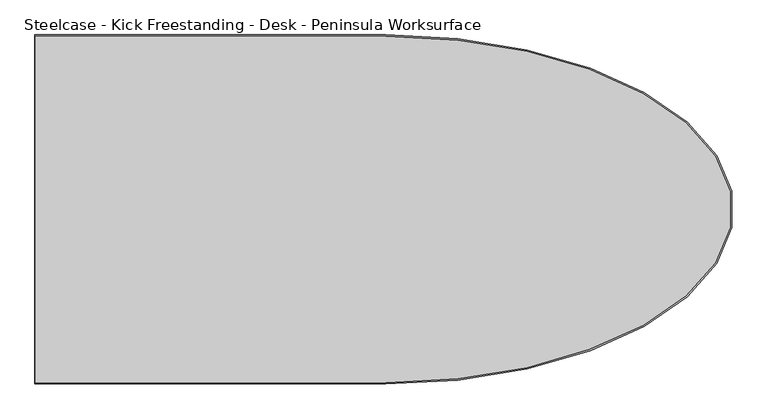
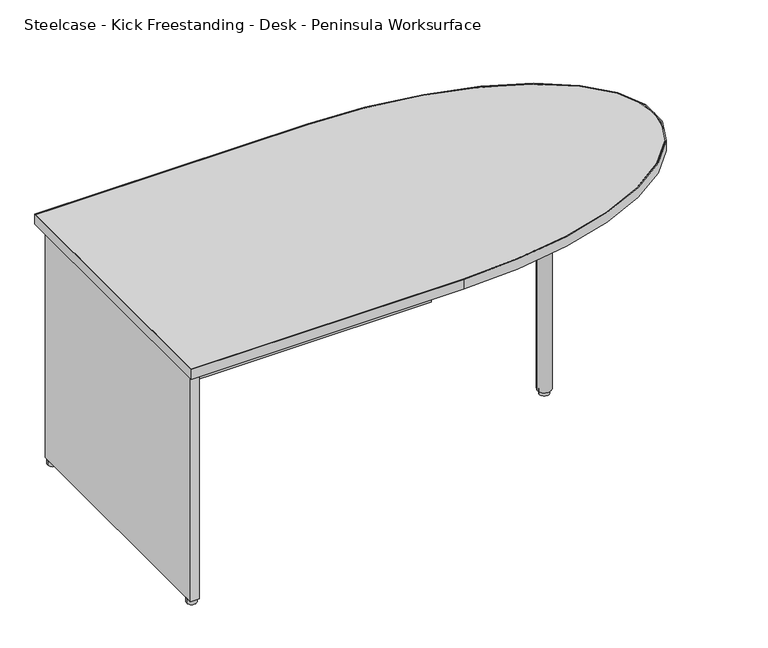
"""IFC4 building model written with IfcOpenShell, lengths in millimetres: furniture geometry, Steelcase - Kick Freestanding - Desk - Peninsula Worksurface : 30D x 60W - Half Panel."""

from ifc_helpers import new_model, si_unit, point, frame, frame_2d, origin, origin_with_axes, place, context, project, spatial, polyline, circle_curve, ellipse_curve, trimmed, segment, composite_curve, outline, extrude, source, transform, mapped, element, save
from ifc_brep_helpers import plane_surface, extruded_surface, advanced_brep


def steelcase_kick_freestanding_desk_peninsula_worksurface_f1aca273(model_context):
    return source(origin(), model_context, "Body", "SolidModel", [
        extrude(outline(polyline([(3375.2298423, -802.0909301), (3500.9534455, -927.8145152), (3375.2298786, -1053.5381002), (3249.5062754, -927.8145152), (3375.2298423, -802.0909301)])), frame((0.0, 0.0, 678.688), z_axis=(0.0, 0.0, 1.0), x_axis=(1.0, 0.0, 0.0)), (0.0, 0.0, 1.0), 16.256),
        extrude(outline(polyline([(2200.9434425, -940.5145152), (2200.9434425, -915.1145152), (3050.5734425, -915.1145152), (3050.5734425, -940.5145152), (2200.9434425, -940.5145152)])), frame((0.0, 0.0, 390.144), z_axis=(0.0, 0.0, 1.0), x_axis=(1.0, 0.0, 0.0)), (0.0, 0.0, 1.0), 304.8),
        extrude(outline(composite_curve([segment(trimmed(circle_curve(frame_2d((3375.1854425, -927.8063303)), 13.97), [point((3361.2154425, -927.8063303))], [point((3389.1554425, -927.8063303))], False, "CARTESIAN"), True, "CONTINUOUS"), segment(trimmed(circle_curve(frame_2d((3375.1854425, -927.8063303)), 13.97), [point((3389.1554425, -927.8063303))], [point((3361.2154425, -927.8063303))], False, "CARTESIAN"), True, "CONTINUOUS")], self_intersect=False)), origin_with_axes(), (0.0, 0.0, 1.0), 12.5222),
        extrude(outline(composite_curve([segment(trimmed(circle_curve(frame_2d((3375.1854425, -927.7998125)), 19.05), [point((3356.1354425, -927.7998125))], [point((3394.2354425, -927.7998125))], False, "CARTESIAN"), True, "CONTINUOUS"), segment(trimmed(circle_curve(frame_2d((3375.1854425, -927.7998125)), 19.05), [point((3394.2354425, -927.7998125))], [point((3356.1354425, -927.7998125))], False, "CARTESIAN"), True, "CONTINUOUS")], self_intersect=False)), frame((0.0, 0.0, 12.5222), z_axis=(0.0, 0.0, 1.0), x_axis=(1.0, 0.0, 0.0)), (0.0, 0.0, 1.0), 682.4218),
        extrude(outline(composite_curve([segment(trimmed(circle_curve(frame_2d((2188.6643434, -589.5500339)), 13.97), [point((2174.6943434, -589.5500339))], [point((2202.6343434, -589.5500339))], False, "CARTESIAN"), True, "CONTINUOUS"), segment(trimmed(circle_curve(frame_2d((2188.6643434, -589.5500339)), 13.97), [point((2202.6343434, -589.5500339))], [point((2174.6943434, -589.5500339))], False, "CARTESIAN"), True, "CONTINUOUS")], self_intersect=False)), origin_with_axes(), (0.0, 0.0, 1.0), 12.5222),
        extrude(outline(composite_curve([segment(trimmed(circle_curve(frame_2d((2188.6465467, -1265.8952821)), 13.97), [point((2174.6765467, -1265.8952821))], [point((2202.6165467, -1265.8952821))], False, "CARTESIAN"), True, "CONTINUOUS"), segment(trimmed(circle_curve(frame_2d((2188.6465467, -1265.8952821)), 13.97), [point((2202.6165467, -1265.8952821))], [point((2174.6765467, -1265.8952821))], False, "CARTESIAN"), True, "CONTINUOUS")], self_intersect=False)), origin_with_axes(), (0.0, 0.0, 1.0), 12.5222),
        advanced_brep(
        [(2163.8594425, -546.8145152, 723.9), (2163.8594425, -1308.8145152, 723.9), (2928.2978111, -1308.8145152, 723.9), (2928.2978111, -546.8145152, 723.9), (2164.8500425, -549.7863152, 723.9), (2928.2978111, -549.7863152, 723.9), (2928.2978111, -1305.8427489, 723.9), (2164.8500425, -1305.8427489, 723.9), (2163.8594425, -546.8145152, 694.944), (2928.2978111, -546.8145152, 694.944), (2928.2978111, -1308.8145152, 694.944), (2163.8594425, -1308.8145152, 694.944), (2164.8500425, -549.7863152, 694.944), (2164.8500425, -1305.8427489, 694.944), (2928.2978111, -1305.8427489, 694.944), (2928.2978111, -549.7863152, 694.944)],
        [
            (0, 1),
            (1, 2),
            (2, 3, ellipse_curve(frame((2928.2978111, -927.8145152, 723.9), z_axis=(0.0, 0.0, 1.0), x_axis=(-1.0, 0.0, 0.0)), 759.0188112, 381.0)),
            (3, 0),
            (4, 5),
            (5, 6, ellipse_curve(frame((2928.2978111, -927.8145321, 723.9), z_axis=(0.0, 0.0, -1.0), x_axis=(-1.0, 0.0, 0.0)), 755.65, 378.0282168)),
            (6, 7),
            (7, 4),
            (8, 9),
            (9, 10, ellipse_curve(frame((2928.2978111, -927.8145152, 694.944), z_axis=(0.0, 0.0, -1.0), x_axis=(0.0, 1.0, 0.0)), 381.0, 759.0188112)),
            (10, 11),
            (11, 8),
            (12, 13),
            (13, 14),
            (14, 15, ellipse_curve(frame((2928.2978111, -927.8145321, 694.944), z_axis=(0.0, 0.0, 1.0), x_axis=(-1.0, 0.0, 0.0)), 755.65, 378.0282168)),
            (15, 12),
            (0, 8),
            (11, 1),
            (10, 2),
            (9, 3),
            (4, 12),
            (15, 5),
            (14, 6),
            (13, 7),
        ],
        [
            plane_surface(frame((2163.8594425, -546.8145152, 723.9), z_axis=(0.0, 0.0, 1.0), x_axis=(0.0, -1.0, 0.0))),
            plane_surface(frame((2163.8594425, -546.8145152, 694.944), z_axis=(0.0, 0.0, -1.0), x_axis=(0.0, 1.0, 0.0))),
            plane_surface(frame((2163.8594425, -546.8145152, 723.9), z_axis=(-1.0, 0.0, 0.0), x_axis=(0.0, 0.0, -1.0))),
            plane_surface(frame((2163.8594425, -1308.8145152, 723.9), z_axis=(0.0, -1.0, 0.0), x_axis=(0.0, 0.0, -1.0))),
            extruded_surface(trimmed(ellipse_curve(frame((2928.2978111, -927.8145152, 665.988), z_axis=(0.0, 0.0, 1.0), x_axis=(0.0, 1.0, 0.0)), 381.0, 759.0188112), [point((2928.2978111, -1308.8145152, 665.988))], [point((2928.2978111, -546.8145152, 665.988))], True, "CARTESIAN"), (0.0, 0.0, 28.955999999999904), 28.955999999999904),
            plane_surface(frame((2928.2978111, -546.8145152, 723.9), z_axis=(0.0, 1.0, 0.0), x_axis=(0.0, 0.0, -1.0))),
            plane_surface(frame((2164.8500425, -549.7863152, 723.9), z_axis=(0.0, -1.0, 0.0), x_axis=(0.0, 0.0, -1.0))),
            extruded_surface(trimmed(ellipse_curve(frame((2928.2978111, -927.8145321, -28.956), z_axis=(0.0, 0.0, -1.0), x_axis=(0.0, -1.0, 0.0)), 378.0282168, 755.65), [point((2928.2978111, -549.7863152, -28.956))], [point((2928.2978111, -1305.8427489, -28.956))], True, "CARTESIAN"), (0.0, 0.0, 28.956), 28.956),
            plane_surface(frame((2928.2978111, -1305.8427489, 723.9), z_axis=(0.0, 1.0, 0.0), x_axis=(0.0, 0.0, -1.0))),
            plane_surface(frame((2164.8500425, -1305.8427489, 723.9), z_axis=(1.0, 0.0, 0.0), x_axis=(0.0, 0.0, -1.0))),
        ],
        [
            (0, [[1, 2, 3, 4], [5, 6, 7, 8]]),
            (1, [[9, 10, 11, 12], [13, 14, 15, 16]]),
            (2, [[-1, 17, -12, 18]]),
            (3, [[-2, -18, -11, 19]]),
            (4, [[-3, -19, -10, 20]]),
            (5, [[-4, -20, -9, -17]]),
            (6, [[-5, 21, -16, 22]]),
            (7, [[-6, -22, -15, 23]]),
            (8, [[-7, -23, -14, 24]]),
            (9, [[-8, -24, -13, -21]]),
        ],
    ),
        advanced_brep(
        [(2928.2978111, -1305.8427489, 723.9), (2928.2978111, -549.7863152, 723.9), (2164.8500425, -549.7863152, 723.9), (2164.8500425, -1305.8427489, 723.9), (2928.2978111, -1305.8427489, 694.944), (2164.8500425, -1305.8427489, 694.944), (2164.8500425, -549.7863152, 694.944), (2928.2978111, -549.7863152, 694.944)],
        [
            (0, 1, ellipse_curve(frame((2928.2978111, -927.8145321, 723.9), z_axis=(0.0, 0.0, 1.0), x_axis=(1.0, 0.0, 0.0)), 755.65, 378.0282168)),
            (1, 2),
            (2, 3),
            (3, 0),
            (4, 5),
            (5, 6),
            (6, 7),
            (7, 4, ellipse_curve(frame((2928.2978111, -927.8145321, 694.944), z_axis=(0.0, 0.0, -1.0), x_axis=(0.0, -1.0, 0.0)), 378.0282168, 755.65)),
            (0, 4),
            (7, 1),
            (6, 2),
            (5, 3),
        ],
        [
            plane_surface(frame((2928.2978111, -1305.8427489, 723.9), z_axis=(0.0, 0.0, 1.0), x_axis=(1.0, 0.0, 0.0))),
            plane_surface(frame((2928.2978111, -1305.8427489, 694.944), z_axis=(0.0, 0.0, -1.0), x_axis=(-1.0, 0.0, 0.0))),
            extruded_surface(trimmed(ellipse_curve(frame((2928.2978111, -927.8145321, 665.988), z_axis=(0.0, 0.0, 1.0), x_axis=(0.0, -1.0, 0.0)), 378.0282168, 755.65), [point((2928.2978111, -1305.8427489, 665.988))], [point((2928.2978111, -549.7863152, 665.988))], True, "CARTESIAN"), (0.0, 0.0, 28.955999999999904), 28.955999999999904),
            plane_surface(frame((2928.2978111, -549.7863152, 723.9), z_axis=(0.0, 1.0, 0.0), x_axis=(0.0, 0.0, -1.0))),
            plane_surface(frame((2164.8500425, -549.7863152, 723.9), z_axis=(-1.0, 0.0, 0.0), x_axis=(0.0, 0.0, -1.0))),
            plane_surface(frame((2164.8500425, -1305.8427489, 723.9), z_axis=(0.0, -1.0, 0.0), x_axis=(0.0, 0.0, -1.0))),
        ],
        [
            (0, [[1, 2, 3, 4]]),
            (1, [[5, 6, 7, 8]]),
            (2, [[-1, 9, -8, 10]]),
            (3, [[-2, -10, -7, 11]]),
            (4, [[-3, -11, -6, 12]]),
            (5, [[-4, -12, -5, -9]]),
        ],
    ),
        extrude(outline(polyline([(2200.9434425, -574.3735161), (2200.9434425, -688.2671183), (2179.9630426, -688.2671183), (2179.9630426, -787.936716), (2200.9434425, -787.936716), (2200.9434425, -1067.6923144), (2179.9630426, -1067.6923144), (2179.9630426, -1167.3618848), (2200.9434425, -1167.3618848), (2200.9434425, -1281.2555142), (2176.5594429, -1281.2555142), (2176.5594429, -574.3735161), (2200.9434425, -574.3735161)])), frame((0.0, 0.0, 12.5222), z_axis=(0.0, 0.0, 1.0), x_axis=(1.0, 0.0, 0.0)), (0.0, 0.0, 1.0), 682.4218),
    ])


if __name__ == "__main__":
    model = new_model("IFC4")
    model_context = context("Model", 3, world=origin())
    ifc_project = project(units=[si_unit("LENGTHUNIT", "METRE", prefix="MILLI")], contexts=[model_context])
    site = spatial("IfcSite", under=ifc_project)
    building = spatial("IfcBuilding", under=site)
    placement = place(None, origin())
    steelcase_kick_freestanding_desk_peninsula_worksurface_shape = steelcase_kick_freestanding_desk_peninsula_worksurface_f1aca273(model_context)
    element("IfcFurniture", 1, ObjectType="Steelcase - Kick Freestanding - Desk - Peninsula Worksurface : 30D x 60W - Half Panel", at=placement, inside=building, context=model_context, shape_type="MappedRepresentation", body=[
        mapped(steelcase_kick_freestanding_desk_peninsula_worksurface_shape, transform((0.0, 0.0, 0.0), x_axis=(1.0, 0.0, 0.0), y_axis=(0.0, 1.0, 0.0), z_axis=(0.0, 0.0, 1.0))),
    ])
    save(model, "model.ifc")
